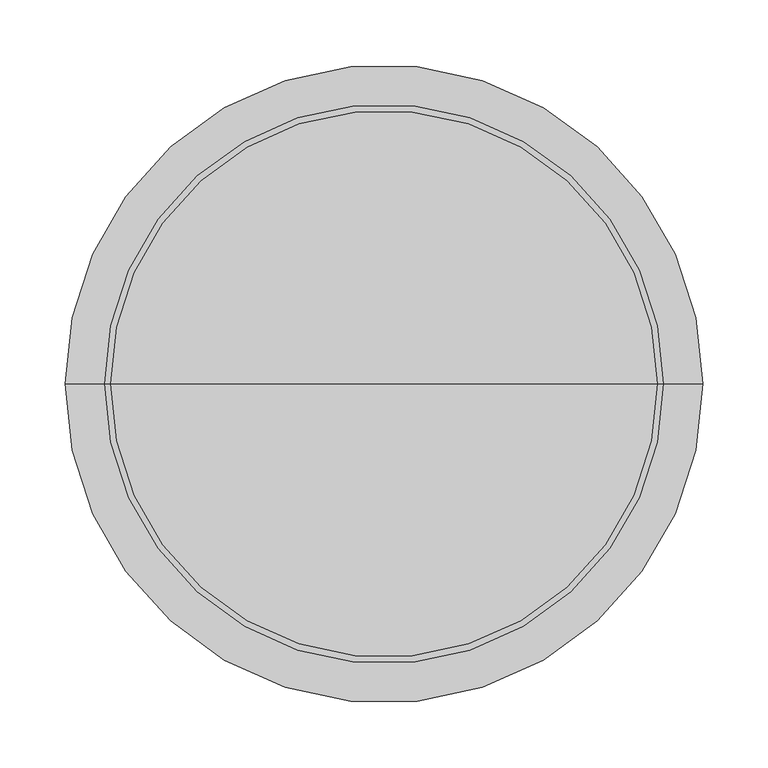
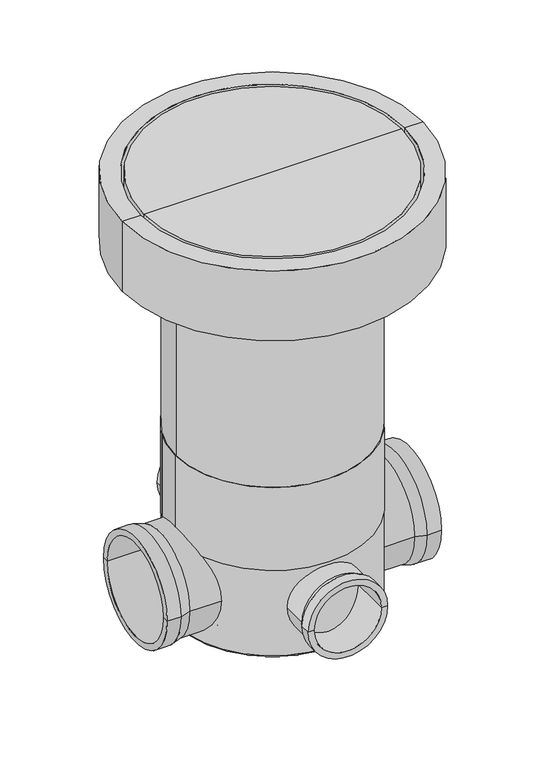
"""IFC4 building model written with IfcOpenShell, lengths in millimetres: pipe fitting geometry, PavcoWavin_UnionesDeTuberia_CajadeInspección315mm : Caja Inspección 315 mm."""

from ifc_helpers import new_model, si_unit, point, frame, origin, place, context, project, spatial, polyline, circle_curve, ellipse_curve, trimmed, source, transform, mapped, element, save
from ifc_brep_helpers import plane_surface, cylinder_surface, revolved_surface, advanced_brep


def pipe_fitting_f6cc763c(model_context):
    return source(origin(), model_context, "Body", "AdvancedBrep", [
        advanced_brep(
        [(60.0, -122.5, 0.0), (-60.0, -122.5, 0.0), (-55.0, -122.5, 0.0), (55.0, -122.5, 0.0), (-55.0, -212.5, 0.0), (55.0, -212.5, 0.0), (-65.0, -212.5, 0.0), (65.0, -212.5, 0.0), (-65.0, -196.5, 0.0), (65.0, -196.5, 0.0), (60.0, -186.5, 0.0), (-60.0, -186.5, 0.0)],
        [
            (0, 1, circle_curve(frame((0.0, -122.5, 0.0), z_axis=(0.0, 1.0, 0.0), x_axis=(-1.0, 0.0, 0.0)), 60.0)),
            (1, 2),
            (2, 3, circle_curve(frame((0.0, -122.5, 0.0), z_axis=(0.0, -1.0, 0.0), x_axis=(-1.0, 0.0, 0.0)), 55.0)),
            (3, 0),
            (2, 4),
            (4, 5, circle_curve(frame((0.0, -212.5, 0.0), z_axis=(0.0, -1.0, 0.0), x_axis=(-1.0, 0.0, 0.0)), 55.0)),
            (5, 3),
            (4, 6),
            (6, 7, circle_curve(frame((0.0, -212.5, 0.0), z_axis=(0.0, -1.0, 0.0), x_axis=(-1.0, 0.0, 0.0)), 65.0)),
            (7, 5),
            (6, 8),
            (8, 9, circle_curve(frame((0.0, -196.5, 0.0), z_axis=(0.0, -1.0, 0.0), x_axis=(-1.0, 0.0, 0.0)), 65.0)),
            (9, 7),
            (10, 11, circle_curve(frame((0.0, -186.5, 0.0), z_axis=(0.0, 1.0, 0.0), x_axis=(-1.0, 0.0, 0.0)), 60.0)),
            (11, 1),
            (0, 10),
            (11, 10, circle_curve(frame((0.0, -186.5, 0.0), z_axis=(0.0, 1.0, 0.0), x_axis=(-1.0, 0.0, 0.0)), 60.0)),
            (0, 1, circle_curve(frame((0.0, -122.5, 0.0), z_axis=(0.0, -1.0, 0.0), x_axis=(-1.0, 0.0, 0.0)), 60.0)),
            (6, 7, circle_curve(frame((0.0, -212.5, 0.0), z_axis=(0.0, 1.0, 0.0), x_axis=(-1.0, 0.0, 0.0)), 65.0)),
            (9, 8, circle_curve(frame((0.0, -196.5, 0.0), z_axis=(0.0, -1.0, 0.0), x_axis=(-1.0, 0.0, 0.0)), 65.0)),
            (4, 5, circle_curve(frame((0.0, -212.5, 0.0), z_axis=(0.0, 1.0, 0.0), x_axis=(-1.0, 0.0, 0.0)), 55.0)),
            (2, 3, circle_curve(frame((0.0, -122.5, 0.0), z_axis=(0.0, 1.0, 0.0), x_axis=(-1.0, 0.0, 0.0)), 55.0)),
            (8, 11),
            (10, 9),
        ],
        [
            plane_surface(frame((0.0, -122.5, 0.0), z_axis=(0.0, 1.0, 0.0), x_axis=(-1.0, 0.0, 0.0))),
            revolved_surface(polyline([(-55.0, -212.5, 0.0), (-55.0, -122.5, 0.0)]), (0.0, 1645.8661967, 0.0), (0.0, -1.0, 0.0)),
            plane_surface(frame((0.0, -212.5, 0.0), z_axis=(0.0, -1.0, 0.0), x_axis=(-1.0, 0.0, 0.0))),
            cylinder_surface(frame((0.0, 1645.8661967, 0.0), z_axis=(0.0, -1.0, 0.0), x_axis=(-1.0, 0.0, 0.0)), 65.0),
            cylinder_surface(frame((0.0, 1645.8661967, 0.0), z_axis=(0.0, -1.0, 0.0), x_axis=(-1.0, 0.0, 0.0)), 60.0),
            revolved_surface(polyline([(-60.0, -186.5, 0.0), (-65.0, -196.5, 0.0)]), (0.0, 1645.8661967, 0.0), (0.0, -1.0, 0.0)),
        ],
        [
            (0, [[1, 2, 3, 4]]),
            (1, [[-3, 5, 6, 7]]),
            (2, [[-6, 8, 9, 10]]),
            (3, [[-9, 11, 12, 13]]),
            (4, [[14, 15, -1, 16]]),
            (4, [[17, -16, 18, -15]]),
            (3, [[19, -13, 20, -11]]),
            (2, [[21, -10, -19, -8]]),
            (1, [[22, -7, -21, -5]]),
            (0, [[-18, -4, -22, -2]]),
            (5, [[-12, 23, -14, 24]]),
            (5, [[-20, -24, -17, -23]]),
        ],
    ),
        advanced_brep(
        [(55.0, 122.5, 0.0), (-55.0, 122.5, 0.0), (-60.0, 122.5, 0.0), (60.0, 122.5, 0.0), (55.0, 212.5, 0.0), (-55.0, 212.5, 0.0), (65.0, 212.5, 0.0), (-65.0, 212.5, 0.0), (65.0, 196.5, 0.0), (-65.0, 196.5, 0.0), (-60.0, 186.5, 0.0), (60.0, 186.5, 0.0)],
        [
            (0, 1, circle_curve(frame((0.0, 122.5, 0.0), z_axis=(0.0, 1.0, 0.0), x_axis=(-1.0, 0.0, 0.0)), 55.0)),
            (1, 2),
            (2, 3, circle_curve(frame((0.0, 122.5, 0.0), z_axis=(0.0, -1.0, 0.0), x_axis=(-1.0, 0.0, 0.0)), 60.0)),
            (3, 0),
            (1, 0, circle_curve(frame((0.0, 122.5, 0.0), z_axis=(0.0, 1.0, 0.0), x_axis=(-1.0, 0.0, 0.0)), 55.0)),
            (3, 2, circle_curve(frame((0.0, 122.5, 0.0), z_axis=(0.0, -1.0, 0.0), x_axis=(-1.0, 0.0, 0.0)), 60.0)),
            (4, 5, circle_curve(frame((0.0, 212.5, 0.0), z_axis=(0.0, 1.0, 0.0), x_axis=(-1.0, 0.0, 0.0)), 55.0)),
            (5, 1),
            (0, 4),
            (5, 4, circle_curve(frame((0.0, 212.5, 0.0), z_axis=(0.0, 1.0, 0.0), x_axis=(-1.0, 0.0, 0.0)), 55.0)),
            (6, 7, circle_curve(frame((0.0, 212.5, 0.0), z_axis=(0.0, 1.0, 0.0), x_axis=(-1.0, 0.0, 0.0)), 65.0)),
            (7, 5),
            (4, 6),
            (7, 6, circle_curve(frame((0.0, 212.5, 0.0), z_axis=(0.0, 1.0, 0.0), x_axis=(-1.0, 0.0, 0.0)), 65.0)),
            (8, 9, circle_curve(frame((0.0, 196.5, 0.0), z_axis=(0.0, 1.0, 0.0), x_axis=(-1.0, 0.0, 0.0)), 65.0)),
            (9, 7),
            (6, 8),
            (9, 8, circle_curve(frame((0.0, 196.5, 0.0), z_axis=(0.0, 1.0, 0.0), x_axis=(-1.0, 0.0, 0.0)), 65.0)),
            (2, 10),
            (10, 11, circle_curve(frame((0.0, 186.5, 0.0), z_axis=(0.0, -1.0, 0.0), x_axis=(-1.0, 0.0, 0.0)), 60.0)),
            (11, 3),
            (11, 10, circle_curve(frame((0.0, 186.5, 0.0), z_axis=(0.0, -1.0, 0.0), x_axis=(-1.0, 0.0, 0.0)), 60.0)),
            (10, 9),
            (8, 11),
        ],
        [
            plane_surface(frame((0.0, 122.5, 0.0), z_axis=(0.0, -1.0, 0.0), x_axis=(-1.0, 0.0, 0.0))),
            revolved_surface(polyline([(-55.0, 122.5, 0.0), (-55.0, 212.5, 0.0)]), (0.0, 1645.8661967, 0.0), (0.0, -1.0, 0.0)),
            plane_surface(frame((0.0, 212.5, 0.0), z_axis=(0.0, 1.0, 0.0), x_axis=(-1.0, 0.0, 0.0))),
            cylinder_surface(frame((0.0, 1645.8661967, 0.0), z_axis=(0.0, -1.0, 0.0), x_axis=(-1.0, 0.0, 0.0)), 65.0),
            cylinder_surface(frame((0.0, 1645.8661967, 0.0), z_axis=(0.0, -1.0, 0.0), x_axis=(-1.0, 0.0, 0.0)), 60.0),
            revolved_surface(polyline([(-65.0, 196.5, 0.0), (-60.0, 186.5, 0.0)]), (0.0, 1645.8661967, 0.0), (0.0, -1.0, 0.0)),
        ],
        [
            (0, [[1, 2, 3, 4]]),
            (0, [[5, -4, 6, -2]]),
            (1, [[7, 8, -1, 9]]),
            (1, [[10, -9, -5, -8]]),
            (2, [[11, 12, -7, 13]]),
            (2, [[14, -13, -10, -12]]),
            (3, [[15, 16, -11, 17]]),
            (3, [[18, -17, -14, -16]]),
            (4, [[-3, 19, 20, 21]]),
            (4, [[-6, -21, 22, -19]]),
            (5, [[-20, 23, -15, 24]]),
            (5, [[-22, -24, -18, -23]]),
        ],
    ),
        advanced_brep(
        [(-223.5, -80.0, 0.0), (-223.5, 80.0, 0.0), (-223.5, 90.0, 0.0), (-223.5, -90.0, 0.0), (-122.5, -85.0, 0.0), (-122.5, 85.0, 0.0), (-122.5, 80.0, 0.0), (-122.5, -80.0, 0.0), (-183.1794919, -85.0, 0.0), (-183.1794919, 85.0, 0.0), (-200.5, -90.0, 0.0), (-200.5, 90.0, 0.0)],
        [
            (0, 1, circle_curve(frame((-223.5, 0.0, 0.0), z_axis=(1.0, 0.0, 0.0), x_axis=(0.0, 1.0, 0.0)), 80.0)),
            (1, 2),
            (2, 3, circle_curve(frame((-223.5, 0.0, 0.0), z_axis=(-1.0, 0.0, 0.0), x_axis=(0.0, 1.0, 0.0)), 90.0)),
            (3, 0),
            (4, 5, circle_curve(frame((-122.5, 0.0, 0.0), z_axis=(1.0, 0.0, 0.0), x_axis=(0.0, 1.0, 0.0)), 85.0)),
            (5, 6),
            (6, 7, circle_curve(frame((-122.5, 0.0, 0.0), z_axis=(-1.0, 0.0, 0.0), x_axis=(0.0, 1.0, 0.0)), 80.0)),
            (7, 4),
            (5, 4, circle_curve(frame((-122.5, 0.0, 0.0), z_axis=(1.0, 0.0, 0.0), x_axis=(0.0, 1.0, 0.0)), 85.0)),
            (7, 6, circle_curve(frame((-122.5, 0.0, 0.0), z_axis=(-1.0, 0.0, 0.0), x_axis=(0.0, 1.0, 0.0)), 80.0)),
            (1, 0, circle_curve(frame((-223.5, 0.0, 0.0), z_axis=(1.0, 0.0, 0.0), x_axis=(0.0, 1.0, 0.0)), 80.0)),
            (3, 2, circle_curve(frame((-223.5, 0.0, 0.0), z_axis=(-1.0, 0.0, 0.0), x_axis=(0.0, 1.0, 0.0)), 90.0)),
            (6, 1),
            (0, 7),
            (8, 9, circle_curve(frame((-183.1794919, 0.0, 0.0), z_axis=(1.0, 0.0, 0.0), x_axis=(0.0, 1.0, 0.0)), 85.0)),
            (9, 5),
            (4, 8),
            (9, 8, circle_curve(frame((-183.1794919, 0.0, 0.0), z_axis=(1.0, 0.0, 0.0), x_axis=(0.0, 1.0, 0.0)), 85.0)),
            (10, 11, circle_curve(frame((-200.5, 0.0, 0.0), z_axis=(1.0, 0.0, 0.0), x_axis=(0.0, 1.0, 0.0)), 90.0)),
            (11, 9),
            (8, 10),
            (11, 10, circle_curve(frame((-200.5, 0.0, 0.0), z_axis=(1.0, 0.0, 0.0), x_axis=(0.0, 1.0, 0.0)), 90.0)),
            (2, 11),
            (10, 3),
        ],
        [
            plane_surface(frame((-223.5, 0.0, 0.0), z_axis=(-1.0, 0.0, 0.0), x_axis=(0.0, 1.0, 0.0))),
            plane_surface(frame((-122.5, 0.0, 0.0), z_axis=(1.0, 0.0, 0.0), x_axis=(0.0, 1.0, 0.0))),
            revolved_surface(polyline([(-223.5, 80.0, 0.0), (-122.5, 80.0, 0.0)]), (-183.0, 0.0, 0.0), (-1.0, 0.0, 0.0)),
            cylinder_surface(frame((-183.0, 0.0, 0.0), z_axis=(-1.0, 0.0, 0.0), x_axis=(0.0, 1.0, 0.0)), 85.0),
            revolved_surface(polyline([(-183.1794919, 85.0, 0.0), (-200.5, 90.0, 0.0)]), (-183.0, 0.0, 0.0), (-1.0, 0.0, 0.0)),
            cylinder_surface(frame((-183.0, 0.0, 0.0), z_axis=(-1.0, 0.0, 0.0), x_axis=(0.0, 1.0, 0.0)), 90.0),
        ],
        [
            (0, [[1, 2, 3, 4]]),
            (1, [[5, 6, 7, 8]]),
            (1, [[9, -8, 10, -6]]),
            (0, [[11, -4, 12, -2]]),
            (2, [[-7, 13, -1, 14]]),
            (2, [[-10, -14, -11, -13]]),
            (3, [[15, 16, -5, 17]]),
            (3, [[18, -17, -9, -16]]),
            (4, [[19, 20, -15, 21]]),
            (4, [[22, -21, -18, -20]]),
            (5, [[-3, 23, -19, 24]]),
            (5, [[-12, -24, -22, -23]]),
        ],
    ),
        advanced_brep(
        [(223.5, -80.0, 0.0), (223.5, 80.0, 0.0), (122.5, 80.0, 0.0), (122.5, -80.0, 0.0), (223.5, -90.0, 0.0), (223.5, 90.0, 0.0), (200.5, -90.0, 0.0), (200.5, 90.0, 0.0), (183.1794919, -85.0, 0.0), (183.1794919, 85.0, 0.0), (122.5, -85.0, 0.0), (122.5, 85.0, 0.0)],
        [
            (0, 1, circle_curve(frame((223.5, 0.0, 0.0), z_axis=(1.0, 0.0, 0.0), x_axis=(0.0, 1.0, 0.0)), 80.0)),
            (1, 2),
            (2, 3, circle_curve(frame((122.5, 0.0, 0.0), z_axis=(-1.0, 0.0, 0.0), x_axis=(0.0, 1.0, 0.0)), 80.0)),
            (3, 0),
            (1, 0, circle_curve(frame((223.5, 0.0, 0.0), z_axis=(1.0, 0.0, 0.0), x_axis=(0.0, 1.0, 0.0)), 80.0)),
            (3, 2, circle_curve(frame((122.5, 0.0, 0.0), z_axis=(-1.0, 0.0, 0.0), x_axis=(0.0, 1.0, 0.0)), 80.0)),
            (4, 5, circle_curve(frame((223.5, 0.0, 0.0), z_axis=(1.0, 0.0, 0.0), x_axis=(0.0, 1.0, 0.0)), 90.0)),
            (5, 1),
            (0, 4),
            (5, 4, circle_curve(frame((223.5, 0.0, 0.0), z_axis=(1.0, 0.0, 0.0), x_axis=(0.0, 1.0, 0.0)), 90.0)),
            (6, 7, circle_curve(frame((200.5, 0.0, 0.0), z_axis=(1.0, 0.0, 0.0), x_axis=(0.0, 1.0, 0.0)), 90.0)),
            (7, 5),
            (4, 6),
            (7, 6, circle_curve(frame((200.5, 0.0, 0.0), z_axis=(1.0, 0.0, 0.0), x_axis=(0.0, 1.0, 0.0)), 90.0)),
            (8, 9, circle_curve(frame((183.1794919, 0.0, 0.0), z_axis=(1.0, 0.0, 0.0), x_axis=(0.0, 1.0, 0.0)), 85.0)),
            (9, 7),
            (6, 8),
            (9, 8, circle_curve(frame((183.1794919, 0.0, 0.0), z_axis=(1.0, 0.0, 0.0), x_axis=(0.0, 1.0, 0.0)), 85.0)),
            (10, 11, circle_curve(frame((122.5, 0.0, 0.0), z_axis=(1.0, 0.0, 0.0), x_axis=(0.0, 1.0, 0.0)), 85.0)),
            (11, 9),
            (8, 10),
            (11, 10, circle_curve(frame((122.5, 0.0, 0.0), z_axis=(1.0, 0.0, 0.0), x_axis=(0.0, 1.0, 0.0)), 85.0)),
            (2, 11),
            (10, 3),
        ],
        [
            revolved_surface(polyline([(122.5, 80.0, 0.0), (223.5, 80.0, 0.0)]), (-183.0, 0.0, 0.0), (-1.0, 0.0, 0.0)),
            plane_surface(frame((223.5, 0.0, 0.0), z_axis=(1.0, 0.0, 0.0), x_axis=(0.0, 1.0, 0.0))),
            cylinder_surface(frame((-183.0, 0.0, 0.0), z_axis=(-1.0, 0.0, 0.0), x_axis=(0.0, 1.0, 0.0)), 90.0),
            revolved_surface(polyline([(200.5, 90.0, 0.0), (183.1794919, 85.0, 0.0)]), (-183.0, 0.0, 0.0), (-1.0, 0.0, 0.0)),
            cylinder_surface(frame((-183.0, 0.0, 0.0), z_axis=(-1.0, 0.0, 0.0), x_axis=(0.0, 1.0, 0.0)), 85.0),
            plane_surface(frame((122.5, 0.0, 0.0), z_axis=(-1.0, 0.0, 0.0), x_axis=(0.0, 1.0, 0.0))),
        ],
        [
            (0, [[1, 2, 3, 4]]),
            (0, [[5, -4, 6, -2]]),
            (1, [[7, 8, -1, 9]]),
            (1, [[10, -9, -5, -8]]),
            (2, [[11, 12, -7, 13]]),
            (2, [[14, -13, -10, -12]]),
            (3, [[15, 16, -11, 17]]),
            (3, [[18, -17, -14, -16]]),
            (4, [[19, 20, -15, 21]]),
            (4, [[22, -21, -18, -20]]),
            (5, [[-3, 23, -19, 24]]),
            (5, [[-6, -24, -22, -23]]),
        ],
    ),
        advanced_brep(
        [(210.0, 0.0, 571.65), (-210.0, 0.0, 571.65), (-210.0, 0.0, 641.65), (210.0, 0.0, 641.65), (165.0, 0.0, 571.65), (-165.0, 0.0, 571.65), (144.2893219, 0.0, 592.3606781), (-144.2893219, 0.0, 592.3606781), (0.0, 0.0, 592.3606781), (0.0, 0.0, 641.65)],
        [
            (0, 1, circle_curve(frame((0.0, 0.0, 571.65), z_axis=(0.0, 0.0, 1.0), x_axis=(-1.0, 0.0, 0.0)), 210.0)),
            (1, 2),
            (2, 3, circle_curve(frame((0.0, 0.0, 641.65), z_axis=(0.0, 0.0, -1.0), x_axis=(-1.0, 0.0, 0.0)), 210.0)),
            (3, 0),
            (1, 0, circle_curve(frame((0.0, 0.0, 571.65), z_axis=(0.0, 0.0, 1.0), x_axis=(-1.0, 0.0, 0.0)), 210.0)),
            (3, 2, circle_curve(frame((0.0, 0.0, 641.65), z_axis=(0.0, 0.0, -1.0), x_axis=(-1.0, 0.0, 0.0)), 210.0)),
            (4, 5, circle_curve(frame((0.0, 0.0, 571.65), z_axis=(0.0, 0.0, 1.0), x_axis=(-1.0, 0.0, 0.0)), 165.0)),
            (5, 1),
            (0, 4),
            (5, 4, circle_curve(frame((0.0, 0.0, 571.65), z_axis=(0.0, 0.0, 1.0), x_axis=(-1.0, 0.0, 0.0)), 165.0)),
            (6, 7, circle_curve(frame((0.0, 0.0, 592.3606781), z_axis=(0.0, 0.0, 1.0), x_axis=(-1.0, 0.0, 0.0)), 144.2893219)),
            (7, 5),
            (4, 6),
            (7, 6, circle_curve(frame((0.0, 0.0, 592.3606781), z_axis=(0.0, 0.0, 1.0), x_axis=(-1.0, 0.0, 0.0)), 144.2893219)),
            (8, 7),
            (6, 8),
            (2, 9),
            (9, 3),
        ],
        [
            cylinder_surface(frame((0.0, 0.0, 1473.5281705), z_axis=(0.0, 0.0, -1.0), x_axis=(-1.0, 0.0, 0.0)), 210.0),
            plane_surface(frame((0.0, 0.0, 571.65), z_axis=(0.0, 0.0, -1.0), x_axis=(-1.0, 0.0, 0.0))),
            revolved_surface(polyline([(-165.0, 0.0, 571.65), (-144.2893219, 0.0, 592.3606781)]), (0.0, 0.0, 1473.5281705), (0.0, 0.0, -1.0)),
            plane_surface(frame((0.0, 0.0, 592.3606781), z_axis=(0.0, 0.0, -1.0), x_axis=(-1.0, 0.0, 0.0))),
            plane_surface(frame((0.0, 0.0, 641.65), z_axis=(0.0, 0.0, 1.0), x_axis=(-1.0, 0.0, 0.0))),
        ],
        [
            (0, [[1, 2, 3, 4]]),
            (0, [[5, -4, 6, -2]]),
            (1, [[7, 8, -1, 9]]),
            (1, [[10, -9, -5, -8]]),
            (2, [[11, 12, -7, 13]]),
            (2, [[14, -13, -10, -12]]),
            (3, [[15, -11, 16]]),
            (3, [[-16, -14, -15]]),
            (4, [[-3, 17, 18]]),
            (4, [[-6, -18, -17]]),
        ],
    ),
        advanced_brep(
        [(215.0, 0.0, 641.65), (-215.0, 0.0, 641.65), (-215.0, 0.0, 566.65), (215.0, 0.0, 566.65), (245.0, 0.0, 641.65), (-245.0, 0.0, 641.65), (245.0, 0.0, 521.65), (-245.0, 0.0, 521.65), (185.0, 0.0, 521.65), (-185.0, 0.0, 521.65), (185.0, 0.0, 566.65), (-185.0, 0.0, 566.65)],
        [
            (0, 1, circle_curve(frame((0.0, 0.0, 641.65), z_axis=(0.0, 0.0, 1.0), x_axis=(-1.0, 0.0, 0.0)), 215.0)),
            (1, 2),
            (2, 3, circle_curve(frame((0.0, 0.0, 566.65), z_axis=(0.0, 0.0, -1.0), x_axis=(-1.0, 0.0, 0.0)), 215.0)),
            (3, 0),
            (1, 0, circle_curve(frame((0.0, 0.0, 641.65), z_axis=(0.0, 0.0, 1.0), x_axis=(-1.0, 0.0, 0.0)), 215.0)),
            (3, 2, circle_curve(frame((0.0, 0.0, 566.65), z_axis=(0.0, 0.0, -1.0), x_axis=(-1.0, 0.0, 0.0)), 215.0)),
            (4, 5, circle_curve(frame((0.0, 0.0, 641.65), z_axis=(0.0, 0.0, 1.0), x_axis=(-1.0, 0.0, 0.0)), 245.0)),
            (5, 1),
            (0, 4),
            (5, 4, circle_curve(frame((0.0, 0.0, 641.65), z_axis=(0.0, 0.0, 1.0), x_axis=(-1.0, 0.0, 0.0)), 245.0)),
            (6, 7, circle_curve(frame((0.0, 0.0, 521.65), z_axis=(0.0, 0.0, 1.0), x_axis=(-1.0, 0.0, 0.0)), 245.0)),
            (7, 5),
            (4, 6),
            (7, 6, circle_curve(frame((0.0, 0.0, 521.65), z_axis=(0.0, 0.0, 1.0), x_axis=(-1.0, 0.0, 0.0)), 245.0)),
            (8, 9, circle_curve(frame((0.0, 0.0, 521.65), z_axis=(0.0, 0.0, 1.0), x_axis=(-1.0, 0.0, 0.0)), 185.0)),
            (9, 7),
            (6, 8),
            (9, 8, circle_curve(frame((0.0, 0.0, 521.65), z_axis=(0.0, 0.0, 1.0), x_axis=(-1.0, 0.0, 0.0)), 185.0)),
            (10, 11, circle_curve(frame((0.0, 0.0, 566.65), z_axis=(0.0, 0.0, 1.0), x_axis=(-1.0, 0.0, 0.0)), 185.0)),
            (11, 9),
            (8, 10),
            (11, 10, circle_curve(frame((0.0, 0.0, 566.65), z_axis=(0.0, 0.0, 1.0), x_axis=(-1.0, 0.0, 0.0)), 185.0)),
            (2, 11),
            (10, 3),
        ],
        [
            revolved_surface(polyline([(-215.0, 0.0, 566.65), (-215.0, 0.0, 641.65)]), (0.0, 0.0, 1473.5281705), (0.0, 0.0, -1.0)),
            plane_surface(frame((0.0, 0.0, 641.65), z_axis=(0.0, 0.0, 1.0), x_axis=(-1.0, 0.0, 0.0))),
            cylinder_surface(frame((0.0, 0.0, 1473.5281705), z_axis=(0.0, 0.0, -1.0), x_axis=(-1.0, 0.0, 0.0)), 245.0),
            plane_surface(frame((0.0, 0.0, 521.65), z_axis=(0.0, 0.0, -1.0), x_axis=(-1.0, 0.0, 0.0))),
            revolved_surface(polyline([(-185.0, 0.0, 521.65), (-185.0, 0.0, 566.65)]), (0.0, 0.0, 1473.5281705), (0.0, 0.0, -1.0)),
            plane_surface(frame((0.0, 0.0, 566.65), z_axis=(0.0, 0.0, 1.0), x_axis=(-1.0, 0.0, 0.0))),
        ],
        [
            (0, [[1, 2, 3, 4]]),
            (0, [[5, -4, 6, -2]]),
            (1, [[7, 8, -1, 9]]),
            (1, [[10, -9, -5, -8]]),
            (2, [[11, 12, -7, 13]]),
            (2, [[14, -13, -10, -12]]),
            (3, [[15, 16, -11, 17]]),
            (3, [[18, -17, -14, -16]]),
            (4, [[19, 20, -15, 21]]),
            (4, [[22, -21, -18, -20]]),
            (5, [[-3, 23, -19, 24]]),
            (5, [[-6, -24, -22, -23]]),
        ],
    ),
        advanced_brep(
        [(157.5, 0.0, 66.65), (-157.5, 0.0, 66.65), (-157.5, 0.0, 566.65), (157.5, 0.0, 566.65), (142.0, 0.0, 66.65), (-142.0, 0.0, 66.65), (142.0, 0.0, 566.65), (-142.0, 0.0, 566.65)],
        [
            (0, 1, circle_curve(frame((0.0, 0.0, 66.65), z_axis=(0.0, 0.0, 1.0), x_axis=(-1.0, 0.0, 0.0)), 157.5)),
            (1, 2),
            (2, 3, circle_curve(frame((0.0, 0.0, 566.65), z_axis=(0.0, 0.0, -1.0), x_axis=(-1.0, 0.0, 0.0)), 157.5)),
            (3, 0),
            (1, 0, circle_curve(frame((0.0, 0.0, 66.65), z_axis=(0.0, 0.0, 1.0), x_axis=(-1.0, 0.0, 0.0)), 157.5)),
            (3, 2, circle_curve(frame((0.0, 0.0, 566.65), z_axis=(0.0, 0.0, -1.0), x_axis=(-1.0, 0.0, 0.0)), 157.5)),
            (4, 5, circle_curve(frame((0.0, 0.0, 66.65), z_axis=(0.0, 0.0, 1.0), x_axis=(-1.0, 0.0, 0.0)), 142.0)),
            (5, 1),
            (0, 4),
            (5, 4, circle_curve(frame((0.0, 0.0, 66.65), z_axis=(0.0, 0.0, 1.0), x_axis=(-1.0, 0.0, 0.0)), 142.0)),
            (6, 7, circle_curve(frame((0.0, 0.0, 566.65), z_axis=(0.0, 0.0, 1.0), x_axis=(-1.0, 0.0, 0.0)), 142.0)),
            (7, 5),
            (4, 6),
            (7, 6, circle_curve(frame((0.0, 0.0, 566.65), z_axis=(0.0, 0.0, 1.0), x_axis=(-1.0, 0.0, 0.0)), 142.0)),
            (2, 7),
            (6, 3),
        ],
        [
            cylinder_surface(frame((0.0, 0.0, 1588.4614894), z_axis=(0.0, 0.0, -1.0), x_axis=(-1.0, 0.0, 0.0)), 157.5),
            plane_surface(frame((0.0, 0.0, 66.65), z_axis=(0.0, 0.0, -1.0), x_axis=(-1.0, 0.0, 0.0))),
            revolved_surface(polyline([(-142.0, 0.0, 66.65000000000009), (-142.0, 0.0, 566.65)]), (0.0, 0.0, 1588.4614894), (0.0, 0.0, -1.0)),
            plane_surface(frame((0.0, 0.0, 566.65), z_axis=(0.0, 0.0, 1.0), x_axis=(-1.0, 0.0, 0.0))),
        ],
        [
            (0, [[1, 2, 3, 4]]),
            (0, [[5, -4, 6, -2]]),
            (1, [[7, 8, -1, 9]]),
            (1, [[10, -9, -5, -8]]),
            (2, [[11, 12, -7, 13]]),
            (2, [[14, -13, -10, -12]]),
            (3, [[-3, 15, -11, 16]]),
            (3, [[-6, -16, -14, -15]]),
        ],
    ),
        advanced_brep(
        [(158.5, 0.0, 208.5), (-158.5, 0.0, 208.5), (-157.5, 0.0, 208.5), (157.5, 0.0, 208.5), (158.5, 0.0, 65.5), (-158.5, 0.0, 65.5), (0.0, 0.0, -85.0), (-154.5, 0.0, -85.0), (154.5, 0.0, -85.0), (157.5, 0.0, 66.65), (-157.5, 0.0, 66.65), (0.0, 0.0, 66.65), (157.5, 0.0, -82.0), (-157.5, 0.0, -82.0), (-157.5, 0.0, 65.5), (157.5, 0.0, 65.5)],
        [
            (0, 1, circle_curve(frame((0.0, 0.0, 208.5), z_axis=(0.0, 0.0, 1.0), x_axis=(-1.0, 0.0, 0.0)), 158.5)),
            (1, 2),
            (2, 3, circle_curve(frame((0.0, 0.0, 208.5), z_axis=(0.0, 0.0, -1.0), x_axis=(-1.0, 0.0, 0.0)), 157.5)),
            (3, 0),
            (1, 0, circle_curve(frame((0.0, 0.0, 208.5), z_axis=(0.0, 0.0, 1.0), x_axis=(-1.0, 0.0, 0.0)), 158.5)),
            (3, 2, circle_curve(frame((0.0, 0.0, 208.5), z_axis=(0.0, 0.0, -1.0), x_axis=(-1.0, 0.0, 0.0)), 157.5)),
            (4, 5, circle_curve(frame((0.0, 0.0, 65.5), z_axis=(0.0, 0.0, 1.0), x_axis=(-1.0, 0.0, 0.0)), 158.5)),
            (5, 1),
            (0, 4),
            (5, 4, circle_curve(frame((0.0, 0.0, 65.5), z_axis=(0.0, 0.0, 1.0), x_axis=(-1.0, 0.0, 0.0)), 158.5)),
            (6, 7),
            (7, 8, circle_curve(frame((0.0, 0.0, -85.0), z_axis=(0.0, 0.0, -1.0), x_axis=(-1.0, 0.0, 0.0)), 154.5)),
            (8, 6),
            (8, 7, circle_curve(frame((0.0, 0.0, -85.0), z_axis=(0.0, 0.0, -1.0), x_axis=(-1.0, 0.0, 0.0)), 154.5)),
            (9, 10, circle_curve(frame((0.0, 0.0, 66.65), z_axis=(0.0, 0.0, 1.0), x_axis=(-1.0, 0.0, 0.0)), 157.5)),
            (10, 11),
            (11, 9),
            (10, 9, circle_curve(frame((0.0, 0.0, 66.65), z_axis=(0.0, 0.0, 1.0), x_axis=(-1.0, 0.0, 0.0)), 157.5)),
            (12, 13, circle_curve(frame((0.0, 0.0, -82.0), z_axis=(0.0, 0.0, 1.0), x_axis=(-1.0, 0.0, 0.0)), 157.5)),
            (13, 14),
            (14, 15, circle_curve(frame((0.0, 0.0, 65.5), z_axis=(0.0, 0.0, -1.0), x_axis=(-1.0, 0.0, 0.0)), 157.5)),
            (15, 12),
            (13, 12, circle_curve(frame((0.0, 0.0, -82.0), z_axis=(0.0, 0.0, 1.0), x_axis=(-1.0, 0.0, 0.0)), 157.5)),
            (15, 14, circle_curve(frame((0.0, 0.0, 65.5), z_axis=(0.0, 0.0, -1.0), x_axis=(-1.0, 0.0, 0.0)), 157.5)),
            (14, 5),
            (4, 15),
            (2, 10),
            (9, 3),
            (7, 13, circle_curve(frame((-154.5, 0.0, -82.0), z_axis=(0.0, 1.0, 0.0), x_axis=(1.0, 0.0, 0.0)), 3.0)),
            (12, 8, circle_curve(frame((154.5, 0.0, -82.0), z_axis=(0.0, 1.0, 0.0), x_axis=(-1.0, 0.0, 0.0)), 3.0)),
        ],
        [
            plane_surface(frame((0.0, 0.0, 208.5), z_axis=(0.0, 0.0, 1.0), x_axis=(-1.0, 0.0, 0.0))),
            cylinder_surface(frame((0.0, 0.0, 185.8279757), z_axis=(0.0, 0.0, -1.0), x_axis=(-1.0, 0.0, 0.0)), 158.5),
            plane_surface(frame((0.0, 0.0, -85.0), z_axis=(0.0, 0.0, -1.0), x_axis=(-1.0, 0.0, 0.0))),
            plane_surface(frame((0.0, 0.0, 66.65), z_axis=(0.0, 0.0, 1.0), x_axis=(-1.0, 0.0, 0.0))),
            cylinder_surface(frame((0.0, 0.0, 185.8279757), z_axis=(0.0, 0.0, -1.0), x_axis=(-1.0, 0.0, 0.0)), 157.5),
            plane_surface(frame((0.0, 0.0, 65.5), z_axis=(0.0, 0.0, -1.0), x_axis=(-1.0, 0.0, 0.0))),
            revolved_surface(polyline([(-157.5, 0.0, 66.65), (-157.5, 0.0, 208.5)]), (0.0, 0.0, 185.8279757), (0.0, 0.0, -1.0)),
            revolved_surface(trimmed(ellipse_curve(frame((-154.5, 0.0, -82.0), z_axis=(0.0, -1.0, 0.0), x_axis=(1.0, 0.0, 0.0)), 3.0, 3.0), [point((-157.5, 0.0, -82.0))], [point((-154.5, 0.0, -85.0))], True, "CARTESIAN"), (0.0, 0.0, 185.8279757), (0.0, 0.0, -1.0)),
        ],
        [
            (0, [[1, 2, 3, 4]]),
            (0, [[5, -4, 6, -2]]),
            (1, [[7, 8, -1, 9]]),
            (1, [[10, -9, -5, -8]]),
            (2, [[11, 12, 13]]),
            (2, [[-13, 14, -11]]),
            (3, [[15, 16, 17]]),
            (3, [[18, -17, -16]]),
            (4, [[19, 20, 21, 22]]),
            (4, [[23, -22, 24, -20]]),
            (5, [[-21, 25, -7, 26]]),
            (5, [[-24, -26, -10, -25]]),
            (6, [[-3, 27, -15, 28]]),
            (6, [[-6, -28, -18, -27]]),
            (7, [[-12, 29, -19, 30]]),
            (7, [[-14, -30, -23, -29]]),
        ],
    ),
    ])


if __name__ == "__main__":
    model = new_model("IFC4")
    model_context = context("Model", 3, world=origin())
    ifc_project = project(units=[si_unit("LENGTHUNIT", "METRE", prefix="MILLI")], contexts=[model_context])
    site = spatial("IfcSite", under=ifc_project)
    building = spatial("IfcBuilding", under=site)
    placement = place(None, origin())
    pipe_fitting_shape = pipe_fitting_f6cc763c(model_context)
    element("IfcPipeFitting", 1, ObjectType="PavcoWavin_UnionesDeTuberia_CajadeInspección315mm : Caja Inspección 315 mm", at=placement, inside=building, context=model_context, shape_type="MappedRepresentation", body=[
        mapped(pipe_fitting_shape, transform((0.0, 0.0, 0.0), x_axis=(1.0, 0.0, 0.0), y_axis=(0.0, 1.0, 0.0), z_axis=(0.0, 0.0, 1.0))),
    ])
    save(model, "model.ifc")
